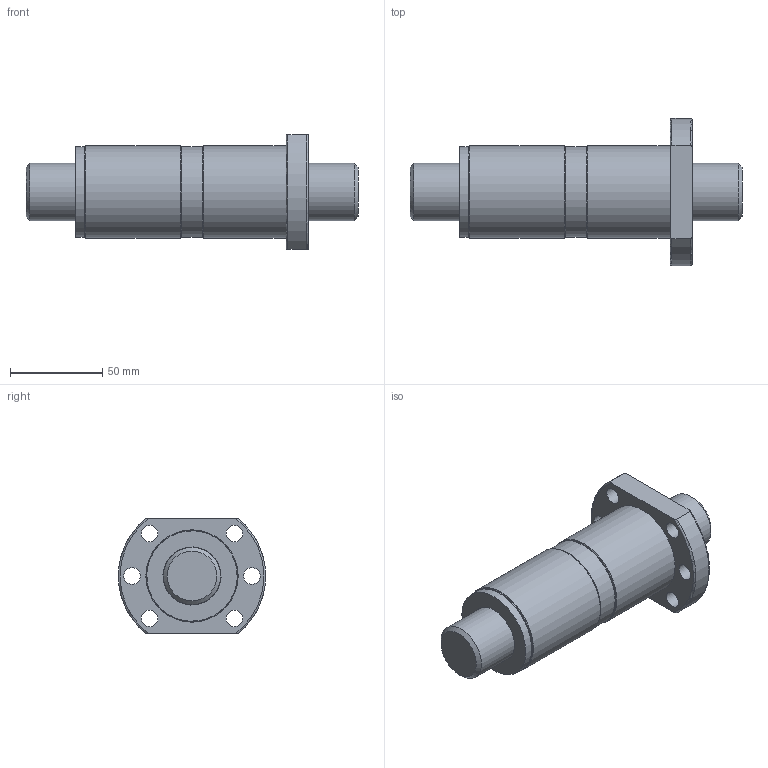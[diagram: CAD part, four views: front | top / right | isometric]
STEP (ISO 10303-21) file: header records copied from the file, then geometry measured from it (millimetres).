
FILE_DESCRIPTION(/* description */ (''),/* implementation_level */ '2;1');
FILE_NAME(/* name */ 'DFS3208',/* time_stamp */ '2007-10-26T13:42:47+08:00',/* author */ (''),/* organization */ (''),/* preprocessor_version */ 'ST-DEVELOPER v9',/* originating_system */ 'UGS - NX 3.0',/* authorisation */ '');
FILE_SCHEMA (('CONFIG_CONTROL_DESIGN'));
Length unit declared in the file: millimetre
Products named in the file (1): jaso15A4i32m
Bounding box: 180 x 79.74 x 62 mm (x, y, z)
Volume: 291881.7 mm3; surface area: 73032.2 mm2
Topology: 7 solids, 7 shells, 51 faces, 103 edges, 68 vertices
Faces by surface type: cylinder 22, plane 18, torus 9, cone 2
Full cylindrical faces by diameter (mm): 9 x6, 31 x1, 31.3 x1, 31.5 x2, 34 x2, 35 x1, 49 x5, 50 x2
Entity records: 1426 total; most frequent: CARTESIAN_POINT 330, DIRECTION 222, ORIENTED_EDGE 142, AXIS2_PLACEMENT_3D 107, EDGE_LOOP 104, FACE_BOUND 78, EDGE_CURVE 71, VERTEX_POINT 63
